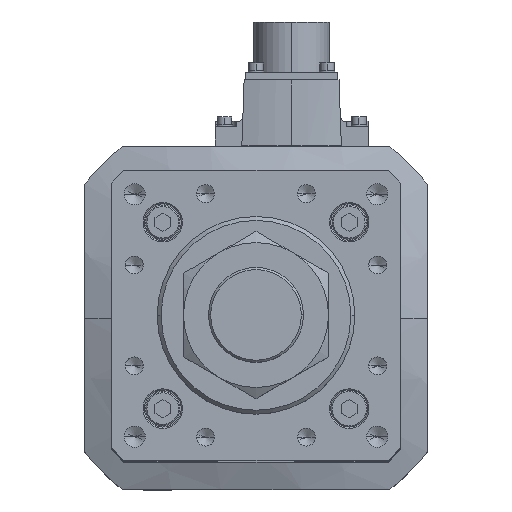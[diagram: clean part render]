
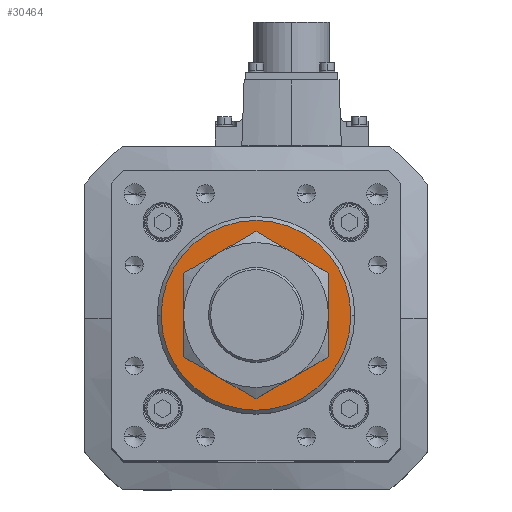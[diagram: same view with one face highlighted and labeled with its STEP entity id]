
A CAD part, top view. The second image highlights one B-rep face of the part: STEP entity #30464.
In plain terms, the highlighted planar face has unit normal (0, 0, 1).
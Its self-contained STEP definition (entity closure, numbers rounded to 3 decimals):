
#605 = EDGE_CURVE ( 'NONE', #35905, #9268, #10462, .T. ) ;
#973 = VERTEX_POINT ( 'NONE', #8182 ) ;
#1064 = CARTESIAN_POINT ( 'NONE',  ( 23., 0., 346. ) ) ;
#1238 = ORIENTED_EDGE ( 'NONE', *, *, #605, .T. ) ;
#1260 = AXIS2_PLACEMENT_3D ( 'NONE', #5097, #2297, #28623 ) ;
#1511 = CARTESIAN_POINT ( 'NONE',  ( 36., 0., 346. ) ) ;
#1827 = EDGE_LOOP ( 'NONE', ( #26926, #1238 ) ) ;
#1919 = EDGE_CURVE ( 'NONE', #9268, #35905, #37704, .T. ) ;
#2297 = DIRECTION ( 'NONE',  ( 0., 0., 1. ) ) ;
#3288 = ORIENTED_EDGE ( 'NONE', *, *, #29801, .T. ) ;
#3585 = CARTESIAN_POINT ( 'NONE',  ( 0., 0., 346. ) ) ;
#3791 = DIRECTION ( 'NONE',  ( 1., 0., 0. ) ) ;
#5097 = CARTESIAN_POINT ( 'NONE',  ( 0., 0., 346. ) ) ;
#5581 = AXIS2_PLACEMENT_3D ( 'NONE', #30956, #28164, #31085 ) ;
#6057 = CARTESIAN_POINT ( 'NONE',  ( -23., 0., 346. ) ) ;
#6319 = DIRECTION ( 'NONE',  ( 0., 0., 1. ) ) ;
#7874 = PLANE ( 'NONE',  #1260 ) ;
#8182 = CARTESIAN_POINT ( 'NONE',  ( -36., 0., 346. ) ) ;
#8746 = AXIS2_PLACEMENT_3D ( 'NONE', #35481, #29736, #3791 ) ;
#9268 = VERTEX_POINT ( 'NONE', #1064 ) ;
#10462 = CIRCLE ( 'NONE', #5581, 23. ) ;
#12164 = CIRCLE ( 'NONE', #25112, 36. ) ;
#14413 = FACE_OUTER_BOUND ( 'NONE', #29198, .T. ) ;
#14929 = ORIENTED_EDGE ( 'NONE', *, *, #16125, .T. ) ;
#16125 = EDGE_CURVE ( 'NONE', #31029, #973, #29515, .T. ) ;
#23386 = DIRECTION ( 'NONE',  ( 1., 0., 0. ) ) ;
#23500 = CARTESIAN_POINT ( 'NONE',  ( 0., 0., 346. ) ) ;
#25112 = AXIS2_PLACEMENT_3D ( 'NONE', #3585, #26500, #26627 ) ;
#25814 = FACE_BOUND ( 'NONE', #1827, .T. ) ;
#26500 = DIRECTION ( 'NONE',  ( 0., 0., 1. ) ) ;
#26627 = DIRECTION ( 'NONE',  ( 1., 0., 0. ) ) ;
#26926 = ORIENTED_EDGE ( 'NONE', *, *, #1919, .T. ) ;
#28164 = DIRECTION ( 'NONE',  ( 0., 0., -1. ) ) ;
#28623 = DIRECTION ( 'NONE',  ( 1., 0., 0. ) ) ;
#29198 = EDGE_LOOP ( 'NONE', ( #3288, #14929 ) ) ;
#29515 = CIRCLE ( 'NONE', #37272, 36. ) ;
#29736 = DIRECTION ( 'NONE',  ( 0., 0., -1. ) ) ;
#29801 = EDGE_CURVE ( 'NONE', #973, #31029, #12164, .T. ) ;
#30464 = ADVANCED_FACE ( 'NONE', ( #25814, #14413 ), #7874, .T. ) ;
#30956 = CARTESIAN_POINT ( 'NONE',  ( 0., 0., 346. ) ) ;
#31029 = VERTEX_POINT ( 'NONE', #1511 ) ;
#31085 = DIRECTION ( 'NONE',  ( 1., 0., 0. ) ) ;
#35481 = CARTESIAN_POINT ( 'NONE',  ( 0., 0., 346. ) ) ;
#35905 = VERTEX_POINT ( 'NONE', #6057 ) ;
#37272 = AXIS2_PLACEMENT_3D ( 'NONE', #23500, #6319, #23386 ) ;
#37704 = CIRCLE ( 'NONE', #8746, 23. ) ;
